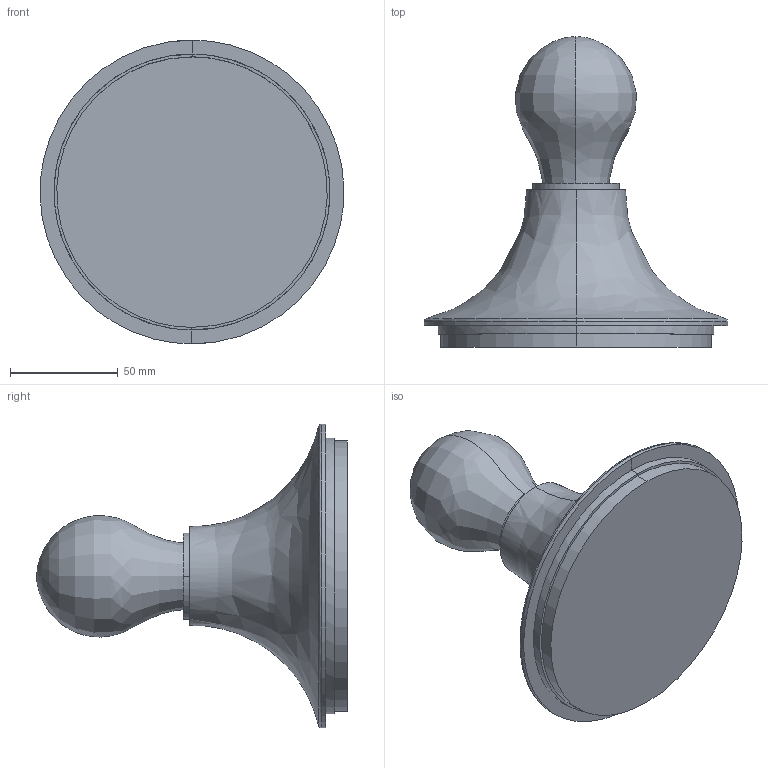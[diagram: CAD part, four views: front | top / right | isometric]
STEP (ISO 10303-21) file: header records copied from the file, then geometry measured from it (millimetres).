
FILE_DESCRIPTION(/* description */ (''),/* implementation_level */ '2;1');
FILE_NAME(/* name */ 'Teti',/* time_stamp */ '2026-09-08T18:05:46+02:00',/* author */ (''),/* organization */ (''),/* preprocessor_version */ 'ST-DEVELOPER v16.5',/* originating_system */ 'Rhino 7.38',/* authorisation */ '');
FILE_SCHEMA (('CONFIG_CONTROL_DESIGN'));
Length unit declared in the file: millimetre
Products named in the file (1): Document
Bounding box: 140.73 x 143.99 x 140.83 mm (x, y, z)
Volume: 356886.5 mm3; surface area: 104984.4 mm2
Topology: 4 solids, 4 shells, 68 faces, 137 edges, 81 vertices
Faces by surface type: bspline 34, cylinder 20, plane 14
Entity records: 2324 total; most frequent: CARTESIAN_POINT 1396, ORIENTED_EDGE 264, EDGE_CURVE 132, EDGE_LOOP 76, VERTEX_POINT 76, ADVANCED_FACE 68, FACE_OUTER_BOUND 68, DIRECTION 40
